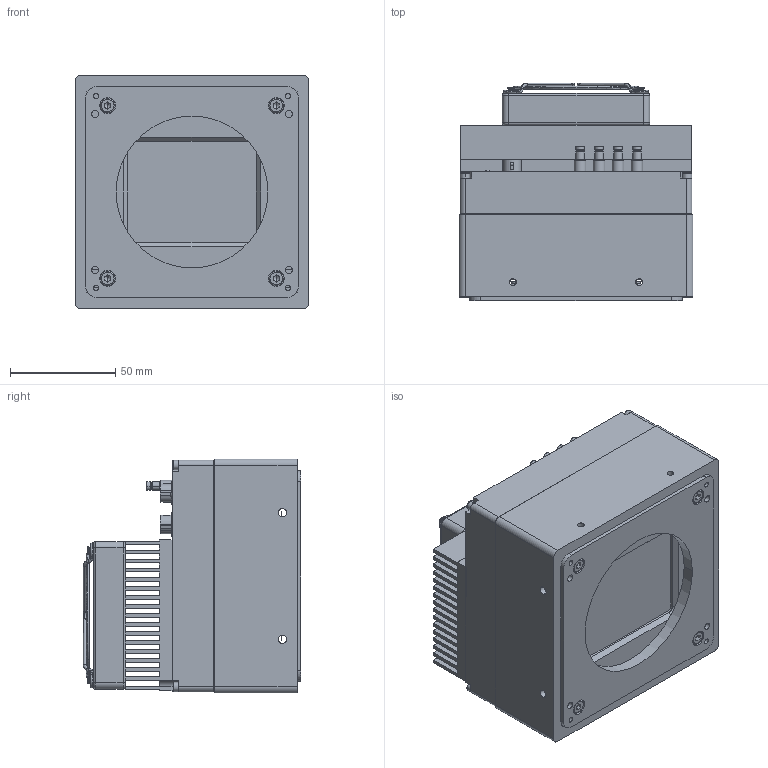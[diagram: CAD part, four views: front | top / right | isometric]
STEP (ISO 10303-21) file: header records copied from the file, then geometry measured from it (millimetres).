
FILE_DESCRIPTION (( 'STEP AP203' ), '1' );
FILE_NAME ('TTS151M2CXP-6M-A01-V1.2.STEP', '2022-12-06T02:48:30', ( '微软用户' ), ( '微软中国' ), 'SwSTEP 2.0', 'SolidWorks 2017', '' );
FILE_SCHEMA (( 'CONFIG_CONTROL_DESIGN' ));
Length unit declared in the file: millimetre
Products named in the file (1): TTS151M2CXP-6M-A01-V1.2
Bounding box: 111 x 103.17 x 111 mm (x, y, z)
Surface area: 140747.6 mm2 (no closed solid volume)
Topology: 0 solids, 78 shells, 802 faces, 2879 edges, 2097 vertices
Faces by surface type: plane 332, cylinder 309, bspline 74, cone 52, torus 24, sphere 11
Entity records: 34051 total; most frequent: CARTESIAN_POINT 10000, DIRECTION 5054, ORIENTED_EDGE 4401, EDGE_CURVE 2840, VERTEX_POINT 2085, AXIS2_PLACEMENT_3D 1699, LINE 1656, VECTOR 1656
